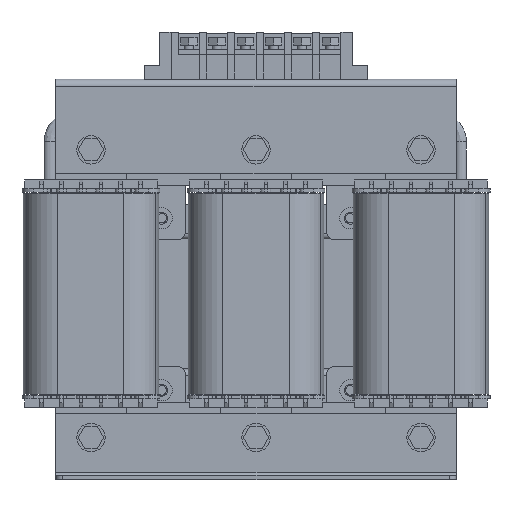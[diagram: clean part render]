
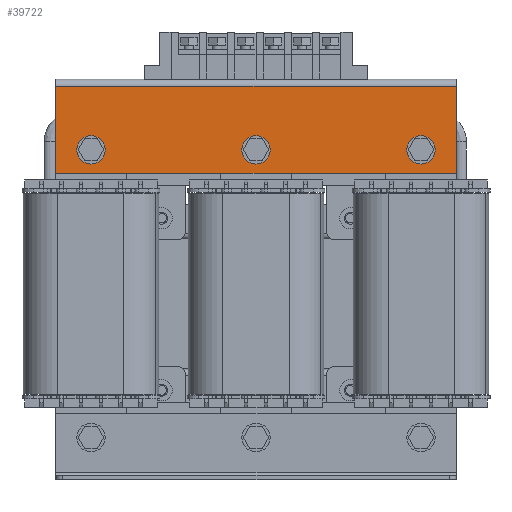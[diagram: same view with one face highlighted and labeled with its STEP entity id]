
A CAD part, front view. The second image highlights one B-rep face of the part: STEP entity #39722.
In plain terms, the highlighted planar face has unit normal (0, -1, 0).
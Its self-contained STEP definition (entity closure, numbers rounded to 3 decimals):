
#1419 = DIRECTION ( 'NONE',  ( -1., 0., 0. ) ) ;
#1680 = ORIENTED_EDGE ( 'NONE', *, *, #20260, .T. ) ;
#4980 = DIRECTION ( 'NONE',  ( 1., 0., 0. ) ) ;
#8100 = CARTESIAN_POINT ( 'NONE',  ( 85.002, 2748.609, 130. ) ) ;
#10387 = DIRECTION ( 'NONE',  ( 0., 0., -1. ) ) ;
#11309 = CARTESIAN_POINT ( 'NONE',  ( 85.002, 2748.609, 130. ) ) ;
#20260 = EDGE_CURVE ( 'NONE', #34530, #55702, #72224, .T. ) ;
#20877 = ORIENTED_EDGE ( 'NONE', *, *, #36700, .T. ) ;
#24340 = CARTESIAN_POINT ( 'NONE',  ( 85.002, 2748.609, 167. ) ) ;
#24427 = CARTESIAN_POINT ( 'NONE',  ( 85.002, 2748.609, 130. ) ) ;
#26159 = EDGE_CURVE ( 'NONE', #52579, #34530, #82514, .T. ) ;
#30486 = ORIENTED_EDGE ( 'NONE', *, *, #26159, .T. ) ;
#32396 = FACE_OUTER_BOUND ( 'NONE', #76842, .T. ) ;
#34530 = VERTEX_POINT ( 'NONE', #63043 ) ;
#34778 = LINE ( 'NONE', #11309, #94917 ) ;
#36621 = EDGE_CURVE ( 'NONE', #67263, #52579, #45186, .T. ) ;
#36700 = EDGE_CURVE ( 'NONE', #55702, #67263, #34778, .T. ) ;
#39722 = ADVANCED_FACE ( 'NONE', ( #32396 ), #83650, .T. ) ;
#41939 = DIRECTION ( 'NONE',  ( 0., 0., -1. ) ) ;
#45186 = LINE ( 'NONE', #8100, #94845 ) ;
#45349 = CARTESIAN_POINT ( 'NONE',  ( 85.002, 2748.609, 167. ) ) ;
#45596 = CARTESIAN_POINT ( 'NONE',  ( 85.002, 2748.609, 130. ) ) ;
#51613 = ORIENTED_EDGE ( 'NONE', *, *, #36621, .T. ) ;
#52579 = VERTEX_POINT ( 'NONE', #45349 ) ;
#55486 = AXIS2_PLACEMENT_3D ( 'NONE', #45596, #75844, #10387 ) ;
#55702 = VERTEX_POINT ( 'NONE', #69756 ) ;
#63043 = CARTESIAN_POINT ( 'NONE',  ( -84.998, 2748.609, 167. ) ) ;
#67263 = VERTEX_POINT ( 'NONE', #24427 ) ;
#67628 = DIRECTION ( 'NONE',  ( 0., 0., 1. ) ) ;
#69756 = CARTESIAN_POINT ( 'NONE',  ( -84.998, 2748.609, 130. ) ) ;
#72224 = LINE ( 'NONE', #79053, #72599 ) ;
#72599 = VECTOR ( 'NONE', #41939, 1000. ) ;
#75844 = DIRECTION ( 'NONE',  ( 0., -1., 0. ) ) ;
#76842 = EDGE_LOOP ( 'NONE', ( #1680, #20877, #51613, #30486 ) ) ;
#79053 = CARTESIAN_POINT ( 'NONE',  ( -84.998, 2748.609, 130. ) ) ;
#82514 = LINE ( 'NONE', #24340, #87319 ) ;
#83650 = PLANE ( 'NONE',  #55486 ) ;
#87319 = VECTOR ( 'NONE', #1419, 1000. ) ;
#94845 = VECTOR ( 'NONE', #67628, 1000. ) ;
#94917 = VECTOR ( 'NONE', #4980, 1000. ) ;
